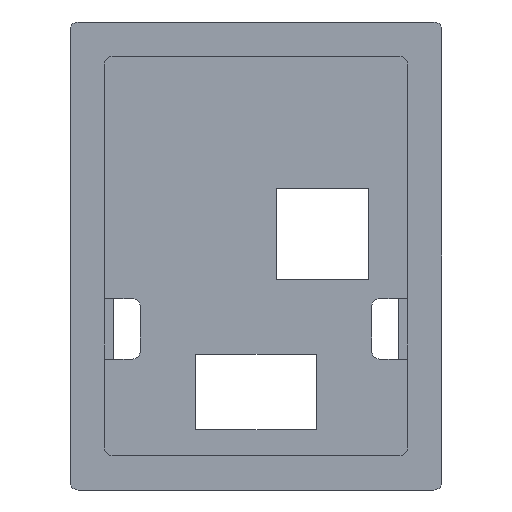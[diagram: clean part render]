
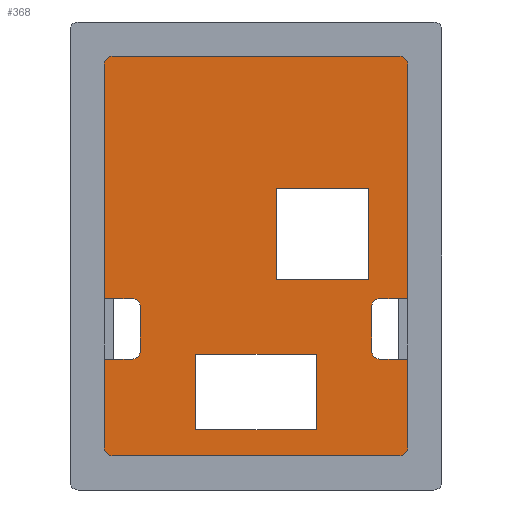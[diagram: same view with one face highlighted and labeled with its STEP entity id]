
A CAD part, left-side view. The second image highlights one B-rep face of the part: STEP entity #368.
In plain terms, the highlighted planar face has unit normal (-1, 0, 0).
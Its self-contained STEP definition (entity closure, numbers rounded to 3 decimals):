
#368=ADVANCED_FACE('',(#1137,#1139,#1141),#1143,.F.);
#1137=FACE_BOUND('',#1138,.T.);
#1138=EDGE_LOOP('',(#1471,#1472,#1473,#1474,#1475,#1476,#1477,#1478,#1479,#1480,
#1481,#1482,#1483,#1484,#1485,#1486,#1487,#1488,#1489,#1490));
#1139=FACE_BOUND('',#1140,.T.);
#1140=EDGE_LOOP('',(#1491,#1492,#1493,#1494));
#1141=FACE_BOUND('',#1142,.T.);
#1142=EDGE_LOOP('',(#1495,#1496,#1497,#1498));
#1143=PLANE('',#1144);
#1144=AXIS2_PLACEMENT_3D('',#1145,#1146,#1147);
#1145=CARTESIAN_POINT('',(0.,0.,0.));
#1146=DIRECTION('',(1.,0.,0.));
#1147=DIRECTION('',(0.,1.,0.));
#1471=ORIENTED_EDGE('',*,*,#1711,.T.);
#1472=ORIENTED_EDGE('',*,*,#1712,.T.);
#1473=ORIENTED_EDGE('',*,*,#1713,.T.);
#1474=ORIENTED_EDGE('',*,*,#1714,.T.);
#1475=ORIENTED_EDGE('',*,*,#1715,.T.);
#1476=ORIENTED_EDGE('',*,*,#1678,.F.);
#1477=ORIENTED_EDGE('',*,*,#1669,.F.);
#1478=ORIENTED_EDGE('',*,*,#1666,.F.);
#1479=ORIENTED_EDGE('',*,*,#1663,.F.);
#1480=ORIENTED_EDGE('',*,*,#1676,.F.);
#1481=ORIENTED_EDGE('',*,*,#1716,.T.);
#1482=ORIENTED_EDGE('',*,*,#1717,.T.);
#1483=ORIENTED_EDGE('',*,*,#1718,.T.);
#1484=ORIENTED_EDGE('',*,*,#1719,.T.);
#1485=ORIENTED_EDGE('',*,*,#1720,.T.);
#1486=ORIENTED_EDGE('',*,*,#1672,.F.);
#1487=ORIENTED_EDGE('',*,*,#1659,.F.);
#1488=ORIENTED_EDGE('',*,*,#1656,.F.);
#1489=ORIENTED_EDGE('',*,*,#1653,.F.);
#1490=ORIENTED_EDGE('',*,*,#1682,.F.);
#1491=ORIENTED_EDGE('',*,*,#1721,.T.);
#1492=ORIENTED_EDGE('',*,*,#1722,.T.);
#1493=ORIENTED_EDGE('',*,*,#1723,.T.);
#1494=ORIENTED_EDGE('',*,*,#1724,.T.);
#1495=ORIENTED_EDGE('',*,*,#1725,.T.);
#1496=ORIENTED_EDGE('',*,*,#1726,.T.);
#1497=ORIENTED_EDGE('',*,*,#1727,.T.);
#1498=ORIENTED_EDGE('',*,*,#1728,.T.);
#1653=EDGE_CURVE('',#1838,#1840,#1841,.T.);
#1656=EDGE_CURVE('',#1840,#1845,#1846,.T.);
#1659=EDGE_CURVE('',#1845,#1850,#1851,.T.);
#1663=EDGE_CURVE('',#1856,#1858,#1859,.T.);
#1666=EDGE_CURVE('',#1858,#1863,#1864,.T.);
#1669=EDGE_CURVE('',#1863,#1868,#1869,.T.);
#1672=EDGE_CURVE('',#1850,#1872,#1873,.T.);
#1676=EDGE_CURVE('',#1878,#1856,#1880,.T.);
#1678=EDGE_CURVE('',#1868,#1882,#1883,.T.);
#1682=EDGE_CURVE('',#1888,#1838,#1890,.T.);
#1711=EDGE_CURVE('',#1888,#1935,#1936,.T.);
#1712=EDGE_CURVE('',#1935,#1937,#1938,.F.);
#1713=EDGE_CURVE('',#1937,#1939,#1940,.T.);
#1714=EDGE_CURVE('',#1939,#1941,#1942,.F.);
#1715=EDGE_CURVE('',#1941,#1882,#1943,.T.);
#1716=EDGE_CURVE('',#1878,#1944,#1945,.T.);
#1717=EDGE_CURVE('',#1944,#1946,#1947,.F.);
#1718=EDGE_CURVE('',#1946,#1948,#1949,.T.);
#1719=EDGE_CURVE('',#1948,#1950,#1951,.F.);
#1720=EDGE_CURVE('',#1950,#1872,#1952,.T.);
#1721=EDGE_CURVE('',#1953,#1954,#1955,.T.);
#1722=EDGE_CURVE('',#1954,#1956,#1957,.T.);
#1723=EDGE_CURVE('',#1956,#1958,#1959,.T.);
#1724=EDGE_CURVE('',#1958,#1953,#1960,.T.);
#1725=EDGE_CURVE('',#1961,#1962,#1963,.T.);
#1726=EDGE_CURVE('',#1962,#1964,#1965,.T.);
#1727=EDGE_CURVE('',#1964,#1966,#1967,.T.);
#1728=EDGE_CURVE('',#1966,#1961,#1968,.T.);
#1838=VERTEX_POINT('',#2185);
#1840=VERTEX_POINT('',#2189);
#1841=CIRCLE('',#2190,1.6);
#1845=VERTEX_POINT('',#2201);
#1846=LINE('',#2202,#2203);
#1850=VERTEX_POINT('',#2213);
#1851=CIRCLE('',#2214,1.6);
#1856=VERTEX_POINT('',#2227);
#1858=VERTEX_POINT('',#2231);
#1859=CIRCLE('',#2232,1.6);
#1863=VERTEX_POINT('',#2243);
#1864=LINE('',#2244,#2245);
#1868=VERTEX_POINT('',#2255);
#1869=CIRCLE('',#2256,1.6);
#1872=VERTEX_POINT('',#2266);
#1873=LINE('',#2267,#2268);
#1878=VERTEX_POINT('',#2278);
#1880=LINE('',#2282,#2283);
#1882=VERTEX_POINT('',#2288);
#1883=LINE('',#2289,#2290);
#1888=VERTEX_POINT('',#2300);
#1890=LINE('',#2304,#2305);
#1935=VERTEX_POINT('',#2407);
#1936=LINE('',#2408,#2409);
#1937=VERTEX_POINT('',#2411);
#1938=CIRCLE('',#2412,1.6);
#1939=VERTEX_POINT('',#2416);
#1940=LINE('',#2417,#2418);
#1941=VERTEX_POINT('',#2420);
#1942=CIRCLE('',#2421,1.6);
#1943=LINE('',#2425,#2426);
#1944=VERTEX_POINT('',#2428);
#1945=LINE('',#2429,#2430);
#1946=VERTEX_POINT('',#2432);
#1947=CIRCLE('',#2433,1.6);
#1948=VERTEX_POINT('',#2437);
#1949=LINE('',#2438,#2439);
#1950=VERTEX_POINT('',#2441);
#1951=CIRCLE('',#2442,1.6);
#1952=LINE('',#2446,#2447);
#1953=VERTEX_POINT('',#2449);
#1954=VERTEX_POINT('',#2450);
#1955=LINE('',#2451,#2452);
#1956=VERTEX_POINT('',#2454);
#1957=LINE('',#2455,#2456);
#1958=VERTEX_POINT('',#2458);
#1959=LINE('',#2459,#2460);
#1960=LINE('',#2462,#2463);
#1961=VERTEX_POINT('',#2465);
#1962=VERTEX_POINT('',#2466);
#1963=LINE('',#2467,#2468);
#1964=VERTEX_POINT('',#2470);
#1965=LINE('',#2471,#2472);
#1966=VERTEX_POINT('',#2474);
#1967=LINE('',#2475,#2476);
#1968=LINE('',#2478,#2479);
#2185=CARTESIAN_POINT('',(0.,30.45,38.5));
#2189=CARTESIAN_POINT('',(0.,28.85,40.1));
#2190=AXIS2_PLACEMENT_3D('',#2191,#2192,#2193);
#2191=CARTESIAN_POINT('',(0.,28.85,38.5));
#2192=DIRECTION('',(1.,0.,0.));
#2193=DIRECTION('',(0.,1.,0.));
#2201=CARTESIAN_POINT('',(0.,-28.85,40.1));
#2202=CARTESIAN_POINT('',(0.,28.85,40.1));
#2203=VECTOR('',#2204,1.);
#2204=DIRECTION('',(0.,-1.,0.));
#2213=CARTESIAN_POINT('',(0.,-30.45,38.5));
#2214=AXIS2_PLACEMENT_3D('',#2215,#2216,#2217);
#2215=CARTESIAN_POINT('',(0.,-28.85,38.5));
#2216=DIRECTION('',(1.,0.,0.));
#2217=DIRECTION('',(0.,0.,1.));
#2227=CARTESIAN_POINT('',(0.,-30.45,-38.5));
#2231=CARTESIAN_POINT('',(0.,-28.85,-40.1));
#2232=AXIS2_PLACEMENT_3D('',#2233,#2234,#2235);
#2233=CARTESIAN_POINT('',(0.,-28.85,-38.5));
#2234=DIRECTION('',(1.,0.,0.));
#2235=DIRECTION('',(0.,-1.,0.));
#2243=CARTESIAN_POINT('',(0.,28.85,-40.1));
#2244=CARTESIAN_POINT('',(0.,-28.85,-40.1));
#2245=VECTOR('',#2246,1.);
#2246=DIRECTION('',(0.,1.,0.));
#2255=CARTESIAN_POINT('',(0.,30.45,-38.5));
#2256=AXIS2_PLACEMENT_3D('',#2257,#2258,#2259);
#2257=CARTESIAN_POINT('',(0.,28.85,-38.5));
#2258=DIRECTION('',(1.,0.,0.));
#2259=DIRECTION('',(0.,0.,-1.));
#2266=CARTESIAN_POINT('',(0.,-30.45,-8.6));
#2267=CARTESIAN_POINT('',(0.,-30.45,38.5));
#2268=VECTOR('',#2269,1.);
#2269=DIRECTION('',(0.,0.,-1.));
#2278=CARTESIAN_POINT('',(0.,-30.45,-20.7));
#2282=CARTESIAN_POINT('',(0.,-30.45,-20.7));
#2283=VECTOR('',#2284,1.);
#2284=DIRECTION('',(0.,0.,-1.));
#2288=CARTESIAN_POINT('',(0.,30.45,-20.7));
#2289=CARTESIAN_POINT('',(0.,30.45,-38.5));
#2290=VECTOR('',#2291,1.);
#2291=DIRECTION('',(0.,0.,1.));
#2300=CARTESIAN_POINT('',(0.,30.45,-8.6));
#2304=CARTESIAN_POINT('',(0.,30.45,-8.6));
#2305=VECTOR('',#2306,1.);
#2306=DIRECTION('',(0.,0.,1.));
#2407=CARTESIAN_POINT('',(0.,24.85,-8.6));
#2408=CARTESIAN_POINT('',(0.,30.45,-8.6));
#2409=VECTOR('',#2410,1.);
#2410=DIRECTION('',(0.,-1.,0.));
#2411=CARTESIAN_POINT('',(0.,23.25,-10.2));
#2412=AXIS2_PLACEMENT_3D('',#2413,#2414,#2415);
#2413=CARTESIAN_POINT('',(0.,24.85,-10.2));
#2414=DIRECTION('',(-1.,0.,0.));
#2415=DIRECTION('',(0.,-1.,0.));
#2416=CARTESIAN_POINT('',(0.,23.25,-19.1));
#2417=CARTESIAN_POINT('',(0.,23.25,-10.2));
#2418=VECTOR('',#2419,1.);
#2419=DIRECTION('',(0.,0.,-1.));
#2420=CARTESIAN_POINT('',(0.,24.85,-20.7));
#2421=AXIS2_PLACEMENT_3D('',#2422,#2423,#2424);
#2422=CARTESIAN_POINT('',(0.,24.85,-19.1));
#2423=DIRECTION('',(-1.,0.,0.));
#2424=DIRECTION('',(0.,0.,-1.));
#2425=CARTESIAN_POINT('',(0.,24.85,-20.7));
#2426=VECTOR('',#2427,1.);
#2427=DIRECTION('',(0.,1.,0.));
#2428=CARTESIAN_POINT('',(0.,-24.85,-20.7));
#2429=CARTESIAN_POINT('',(0.,-30.45,-20.7));
#2430=VECTOR('',#2431,1.);
#2431=DIRECTION('',(0.,1.,0.));
#2432=CARTESIAN_POINT('',(0.,-23.25,-19.1));
#2433=AXIS2_PLACEMENT_3D('',#2434,#2435,#2436);
#2434=CARTESIAN_POINT('',(0.,-24.85,-19.1));
#2435=DIRECTION('',(-1.,0.,0.));
#2436=DIRECTION('',(0.,1.,0.));
#2437=CARTESIAN_POINT('',(0.,-23.25,-10.2));
#2438=CARTESIAN_POINT('',(0.,-23.25,-19.1));
#2439=VECTOR('',#2440,1.);
#2440=DIRECTION('',(0.,0.,1.));
#2441=CARTESIAN_POINT('',(0.,-24.85,-8.6));
#2442=AXIS2_PLACEMENT_3D('',#2443,#2444,#2445);
#2443=CARTESIAN_POINT('',(0.,-24.85,-10.2));
#2444=DIRECTION('',(-1.,0.,0.));
#2445=DIRECTION('',(0.,0.,1.));
#2446=CARTESIAN_POINT('',(0.,-24.85,-8.6));
#2447=VECTOR('',#2448,1.);
#2448=DIRECTION('',(0.,-1.,0.));
#2449=CARTESIAN_POINT('',(0.,12.1,-19.7));
#2450=CARTESIAN_POINT('',(0.,-12.1,-19.7));
#2451=CARTESIAN_POINT('',(0.,12.1,-19.7));
#2452=VECTOR('',#2453,1.);
#2453=DIRECTION('',(0.,-1.,0.));
#2454=CARTESIAN_POINT('',(0.,-12.1,-34.9));
#2455=CARTESIAN_POINT('',(0.,-12.1,-19.7));
#2456=VECTOR('',#2457,1.);
#2457=DIRECTION('',(0.,0.,-1.));
#2458=CARTESIAN_POINT('',(0.,12.1,-34.9));
#2459=CARTESIAN_POINT('',(0.,-12.1,-34.9));
#2460=VECTOR('',#2461,1.);
#2461=DIRECTION('',(0.,1.,0.));
#2462=CARTESIAN_POINT('',(0.,12.1,-34.9));
#2463=VECTOR('',#2464,1.);
#2464=DIRECTION('',(0.,0.,1.));
#2465=CARTESIAN_POINT('',(0.,-22.65,-4.7));
#2466=CARTESIAN_POINT('',(0.,-4.15,-4.7));
#2467=CARTESIAN_POINT('',(0.,-22.65,-4.7));
#2468=VECTOR('',#2469,1.);
#2469=DIRECTION('',(0.,1.,0.));
#2470=CARTESIAN_POINT('',(0.,-4.15,13.6));
#2471=CARTESIAN_POINT('',(0.,-4.15,-4.7));
#2472=VECTOR('',#2473,1.);
#2473=DIRECTION('',(0.,0.,1.));
#2474=CARTESIAN_POINT('',(0.,-22.65,13.6));
#2475=CARTESIAN_POINT('',(0.,-4.15,13.6));
#2476=VECTOR('',#2477,1.);
#2477=DIRECTION('',(0.,-1.,0.));
#2478=CARTESIAN_POINT('',(0.,-22.65,13.6));
#2479=VECTOR('',#2480,1.);
#2480=DIRECTION('',(0.,0.,-1.));
